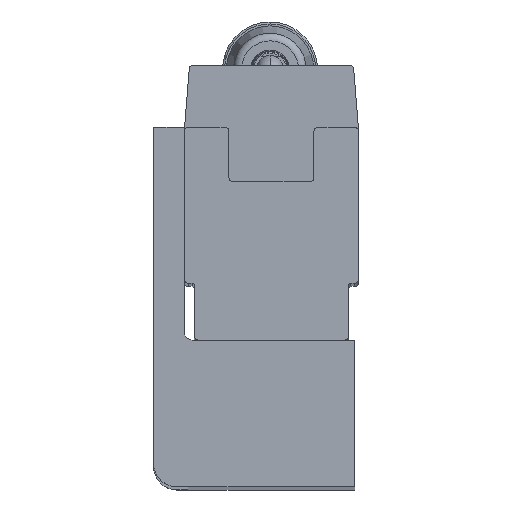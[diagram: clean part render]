
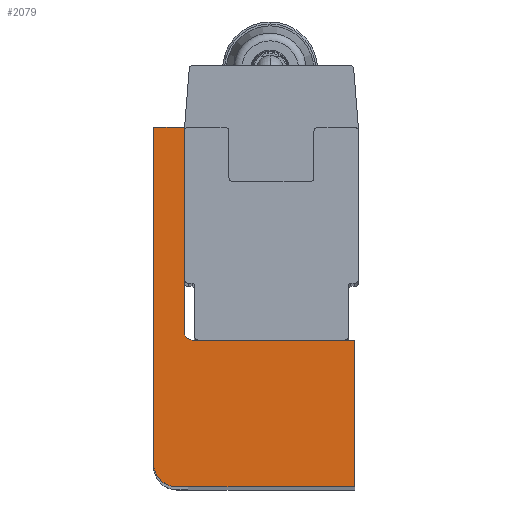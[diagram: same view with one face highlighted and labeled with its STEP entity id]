
A CAD part, top view. The second image highlights one B-rep face of the part: STEP entity #2079.
In plain terms, the highlighted planar face has unit normal (0, 0, 1).
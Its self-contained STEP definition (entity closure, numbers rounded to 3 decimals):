
#1808=CARTESIAN_POINT('',(2.365,1.162,235.));
#1809=DIRECTION('',(0.,0.,1.));
#1810=DIRECTION('',(-1.,0.,0.));
#1811=AXIS2_PLACEMENT_3D('',#1808,#1809,#1810);
#1813=CARTESIAN_POINT('',(-1.635,-32.838,235.));
#1814=DIRECTION('',(0.,0.,-1.));
#1815=DIRECTION('',(0.,-1.,0.));
#1816=AXIS2_PLACEMENT_3D('',#1813,#1814,#1815);
#1822=DIRECTION('',(0.,-1.,0.));
#1823=VECTOR('',#1822,87.);
#1824=CARTESIAN_POINT('',(-7.635,54.162,235.));
#1825=LINE('',#1824,#1823);
#1864=DIRECTION('',(1.,0.,0.));
#1865=VECTOR('',#1864,46.);
#1866=CARTESIAN_POINT('',(-1.635,-38.838,235.));
#1867=LINE('',#1866,#1865);
#1872=DIRECTION('',(0.,1.,0.));
#1873=VECTOR('',#1872,38.);
#1874=CARTESIAN_POINT('',(44.365,-38.838,235.));
#1875=LINE('',#1874,#1873);
#1880=DIRECTION('',(-1.,0.,0.));
#1881=VECTOR('',#1880,42.);
#1882=CARTESIAN_POINT('',(44.365,-0.838,235.));
#1883=LINE('',#1882,#1881);
#1984=DIRECTION('',(0.,1.,0.));
#1985=VECTOR('',#1984,53.);
#1986=CARTESIAN_POINT('',(0.365,1.162,235.));
#1987=LINE('',#1986,#1985);
#1992=DIRECTION('',(-1.,0.,0.));
#1993=VECTOR('',#1992,8.);
#1994=CARTESIAN_POINT('',(0.365,54.162,235.));
#1995=LINE('',#1994,#1993);
#1996=CARTESIAN_POINT('',(-7.635,54.162,235.));
#1997=CARTESIAN_POINT('',(-7.635,-32.838,235.));
#1998=VERTEX_POINT('',#1996);
#1999=VERTEX_POINT('',#1997);
#2000=CARTESIAN_POINT('',(0.365,54.162,235.));
#2001=VERTEX_POINT('',#2000);
#2002=CARTESIAN_POINT('',(0.365,1.162,235.));
#2003=VERTEX_POINT('',#2002);
#2004=CARTESIAN_POINT('',(2.365,-0.838,235.));
#2005=VERTEX_POINT('',#2004);
#2006=CARTESIAN_POINT('',(44.365,-0.838,235.));
#2007=VERTEX_POINT('',#2006);
#2008=CARTESIAN_POINT('',(44.365,-38.838,235.));
#2009=VERTEX_POINT('',#2008);
#2010=CARTESIAN_POINT('',(-1.635,-38.838,235.));
#2011=VERTEX_POINT('',#2010);
#2056=CARTESIAN_POINT('',(-7.635,54.162,235.));
#2057=DIRECTION('',(0.,0.,1.));
#2058=DIRECTION('',(0.,-1.,0.));
#2059=AXIS2_PLACEMENT_3D('',#2056,#2057,#2058);
#2060=PLANE('',#2059);
#2062=ORIENTED_EDGE('',*,*,#2061,.F.);
#2064=ORIENTED_EDGE('',*,*,#2063,.F.);
#2066=ORIENTED_EDGE('',*,*,#2065,.F.);
#2068=ORIENTED_EDGE('',*,*,#2067,.T.);
#2070=ORIENTED_EDGE('',*,*,#2069,.F.);
#2072=ORIENTED_EDGE('',*,*,#2071,.F.);
#2074=ORIENTED_EDGE('',*,*,#2073,.F.);
#2076=ORIENTED_EDGE('',*,*,#2075,.T.);
#2077=EDGE_LOOP('',(#2062,#2064,#2066,#2068,#2070,#2072,#2074,#2076));
#2078=FACE_OUTER_BOUND('',#2077,.F.);
#1812=CIRCLE('',#1811,2.);
#1817=CIRCLE('',#1816,6.);
#2061=EDGE_CURVE('',#1998,#1999,#1825,.T.);
#2063=EDGE_CURVE('',#2001,#1998,#1995,.T.);
#2065=EDGE_CURVE('',#2003,#2001,#1987,.T.);
#2067=EDGE_CURVE('',#2003,#2005,#1812,.T.);
#2069=EDGE_CURVE('',#2007,#2005,#1883,.T.);
#2071=EDGE_CURVE('',#2009,#2007,#1875,.T.);
#2073=EDGE_CURVE('',#2011,#2009,#1867,.T.);
#2075=EDGE_CURVE('',#2011,#1999,#1817,.T.);
#2079=ADVANCED_FACE('',(#2078),#2060,.T.);
